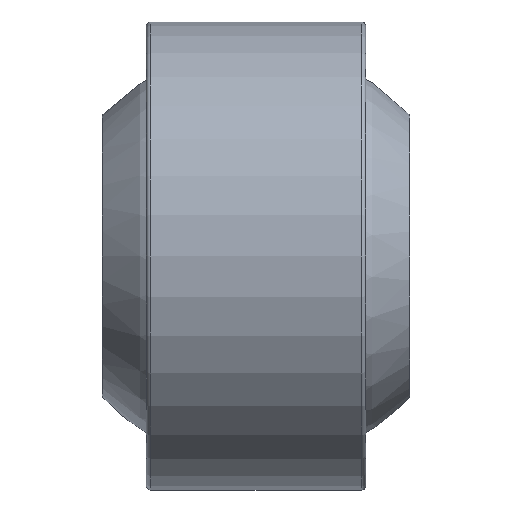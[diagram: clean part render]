
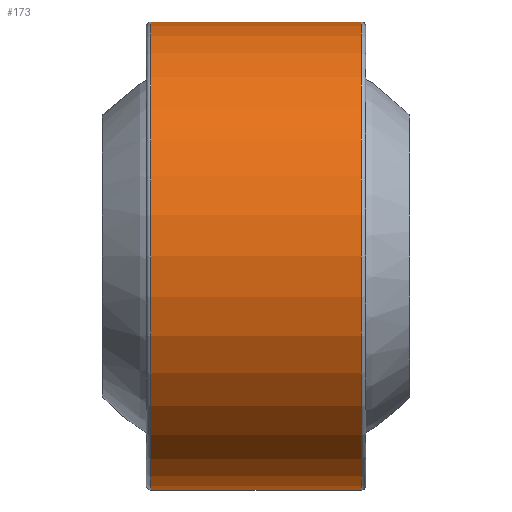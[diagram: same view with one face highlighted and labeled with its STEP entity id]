
A CAD part, front view. The second image highlights one B-rep face of the part: STEP entity #173.
In plain terms, the highlighted cylindrical face has radius 16 mm (diameter 32 mm), a full revolution.
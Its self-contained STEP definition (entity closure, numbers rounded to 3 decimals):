
#173 = ADVANCED_FACE( '', ( #193, #194 ), #195, .T. );
#193 = FACE_OUTER_BOUND( '', #224, .T. );
#194 = FACE_OUTER_BOUND( '', #225, .T. );
#195 = CYLINDRICAL_SURFACE( '', #226, 16. );
#224 = EDGE_LOOP( '', ( #262 ) );
#225 = EDGE_LOOP( '', ( #263 ) );
#226 = AXIS2_PLACEMENT_3D( '', #264, #265, #266 );
#262 = ORIENTED_EDGE( '', *, *, #297, .T. );
#263 = ORIENTED_EDGE( '', *, *, #296, .F. );
#264 = CARTESIAN_POINT( '', ( 7.5, 0., 0. ) );
#265 = DIRECTION( '', ( -1., 0., 0. ) );
#266 = DIRECTION( '', ( 0., 0., -1. ) );
#296 = EDGE_CURVE( '', #310, #310, #311, .T. );
#297 = EDGE_CURVE( '', #312, #312, #313, .T. );
#310 = VERTEX_POINT( '', #330 );
#311 = CIRCLE( '', #331, 16. );
#312 = VERTEX_POINT( '', #332 );
#313 = CIRCLE( '', #333, 16. );
#330 = CARTESIAN_POINT( '', ( 7.2, 0., -16. ) );
#331 = AXIS2_PLACEMENT_3D( '', #354, #355, #356 );
#332 = CARTESIAN_POINT( '', ( -7.2, 0., -16. ) );
#333 = AXIS2_PLACEMENT_3D( '', #357, #358, #359 );
#354 = CARTESIAN_POINT( '', ( 7.2, 0., 0. ) );
#355 = DIRECTION( '', ( 1., 0., 0. ) );
#356 = DIRECTION( '', ( 0., 0., -1. ) );
#357 = CARTESIAN_POINT( '', ( -7.2, 0., 0. ) );
#358 = DIRECTION( '', ( 1., 0., 0. ) );
#359 = DIRECTION( '', ( 0., 0., -1. ) );
